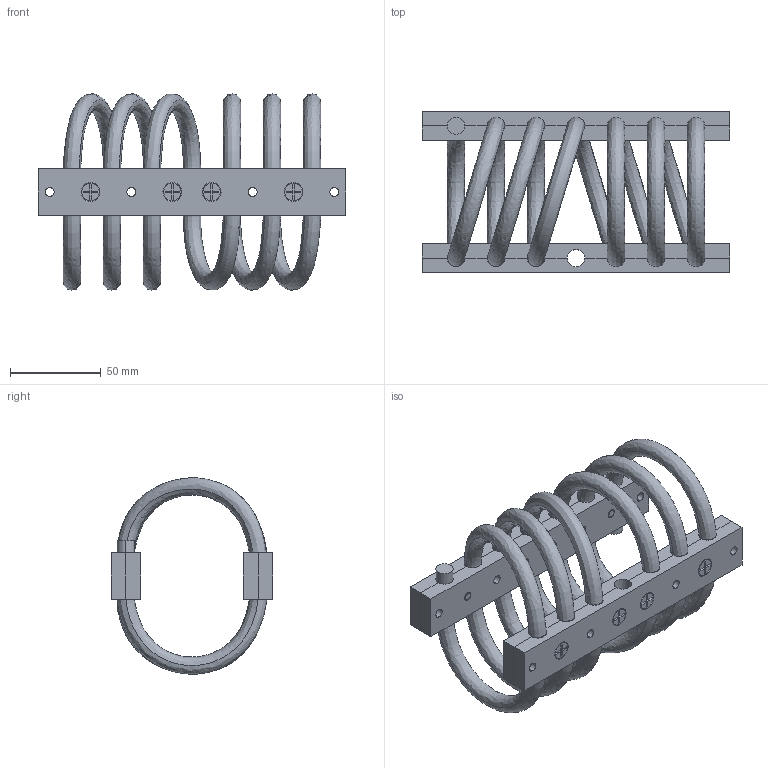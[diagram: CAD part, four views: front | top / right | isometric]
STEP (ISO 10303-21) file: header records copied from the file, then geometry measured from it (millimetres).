
FILE_DESCRIPTION (( 'STEP AP214' ), '1' );
FILE_NAME ('WR12-606-6DM.STEP', '2018-12-07T10:01:05', ( 'user' ), ( 'Microsoft' ), 'SwSTEP 2.0', 'SolidWorks 2016', '' );
FILE_SCHEMA (( 'AUTOMOTIVE_DESIGN' ));
Length unit declared in the file: millimetre
Products named in the file (1): WR12-606-6DM
Bounding box: 169.2 x 89 x 108 mm (x, y, z)
Volume: 245369.9 mm3; surface area: 113473 mm2
Topology: 26 solids, 26 shells, 484 faces, 1166 edges, 758 vertices
Faces by surface type: plane 216, cylinder 194, cone 48, bspline 26
Entity records: 25559 total; most frequent: CARTESIAN_POINT 13131, DIRECTION 2348, ORIENTED_EDGE 2332, EDGE_CURVE 1166, AXIS2_PLACEMENT_3D 843, VERTEX_POINT 758, VECTOR 662, LINE 662
